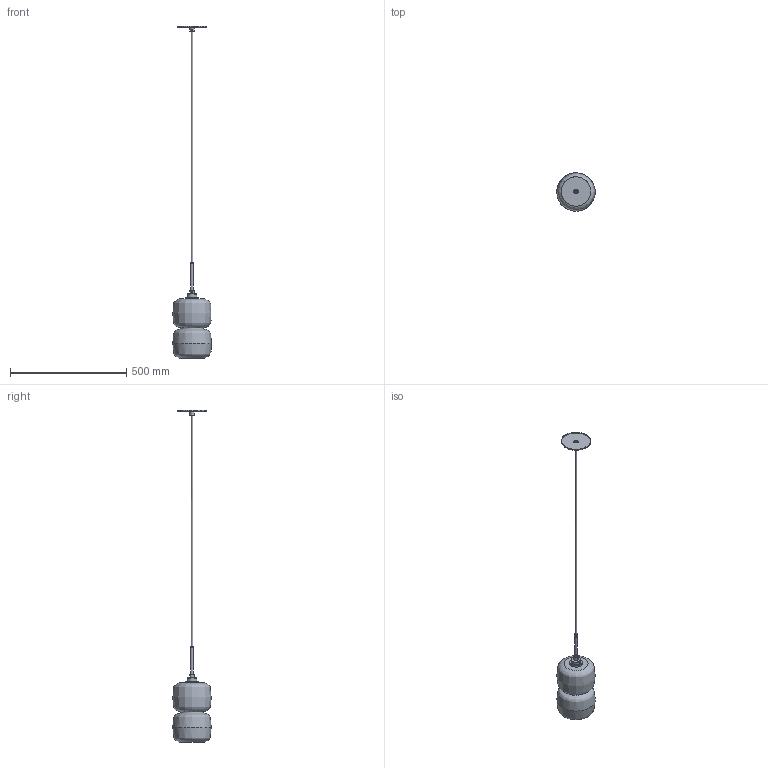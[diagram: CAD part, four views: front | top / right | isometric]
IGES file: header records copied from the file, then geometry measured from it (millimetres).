
Global section: file name: Niche - Pinch Pendant; native system: unknown; preprocessor: unknown; author: unknown; organization: unknown; date: 20220927.154756; units: inch
Bounding box: 165 x 165.03 x 1426.19 mm (x, y, z)
Volume: 695484.8 mm3; surface area: 423759.3 mm2
Topology: 11 solids, 11 shells, 139 faces, 336 edges, 223 vertices
Faces by surface type: bspline 139
